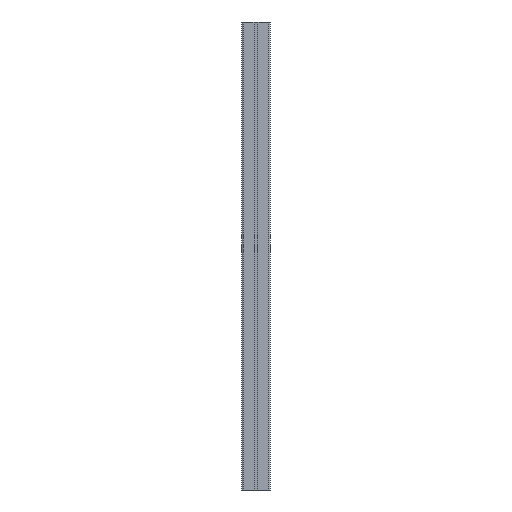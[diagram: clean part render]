
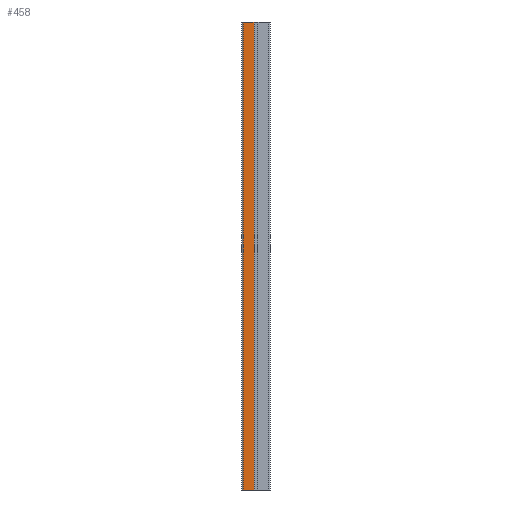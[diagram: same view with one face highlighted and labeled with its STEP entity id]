
A CAD part, left-side view. The second image highlights one B-rep face of the part: STEP entity #458.
In plain terms, the highlighted planar face has unit normal (-1, 0, 0).
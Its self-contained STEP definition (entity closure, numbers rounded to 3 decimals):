
#16 = LINE ( 'NONE', #1779, #2750 ) ;
#167 = EDGE_CURVE ( 'NONE', #253, #1332, #635, .T. ) ;
#243 = VECTOR ( 'NONE', #497, 1000. ) ;
#253 = VERTEX_POINT ( 'NONE', #1755 ) ;
#312 = FACE_OUTER_BOUND ( 'NONE', #1140, .T. ) ;
#357 = DIRECTION ( 'NONE',  ( 0., -1., 0. ) ) ;
#359 = LINE ( 'NONE', #776, #2372 ) ;
#458 = ADVANCED_FACE ( 'NONE', ( #312 ), #2041, .F. ) ;
#497 = DIRECTION ( 'NONE',  ( 0., -1., 0. ) ) ;
#560 = DIRECTION ( 'NONE',  ( 0., 1., 0. ) ) ;
#635 = LINE ( 'NONE', #2295, #1445 ) ;
#716 = EDGE_CURVE ( 'NONE', #1327, #1332, #16, .T. ) ;
#774 = ORIENTED_EDGE ( 'NONE', *, *, #716, .F. ) ;
#776 = CARTESIAN_POINT ( 'NONE',  ( -22.5, 27., 500. ) ) ;
#921 = LINE ( 'NONE', #2641, #243 ) ;
#960 = CARTESIAN_POINT ( 'NONE',  ( -22.5, 4.2, 500. ) ) ;
#1136 = VERTEX_POINT ( 'NONE', #2529 ) ;
#1140 = EDGE_LOOP ( 'NONE', ( #2147, #1728, #2572, #774 ) ) ;
#1327 = VERTEX_POINT ( 'NONE', #1381 ) ;
#1332 = VERTEX_POINT ( 'NONE', #1608 ) ;
#1381 = CARTESIAN_POINT ( 'NONE',  ( -22.5, 4.2, 500. ) ) ;
#1445 = VECTOR ( 'NONE', #357, 1000. ) ;
#1449 = AXIS2_PLACEMENT_3D ( 'NONE', #960, #1840, #560 ) ;
#1457 = EDGE_CURVE ( 'NONE', #1136, #253, #359, .T. ) ;
#1608 = CARTESIAN_POINT ( 'NONE',  ( -22.5, 4.2, -500. ) ) ;
#1728 = ORIENTED_EDGE ( 'NONE', *, *, #1457, .T. ) ;
#1755 = CARTESIAN_POINT ( 'NONE',  ( -22.5, 27., -500. ) ) ;
#1779 = CARTESIAN_POINT ( 'NONE',  ( -22.5, 4.2, 500. ) ) ;
#1840 = DIRECTION ( 'NONE',  ( 1., 0., 0. ) ) ;
#2041 = PLANE ( 'NONE',  #1449 ) ;
#2131 = EDGE_CURVE ( 'NONE', #1136, #1327, #921, .T. ) ;
#2147 = ORIENTED_EDGE ( 'NONE', *, *, #2131, .F. ) ;
#2295 = CARTESIAN_POINT ( 'NONE',  ( -22.5, 4.2, -500. ) ) ;
#2372 = VECTOR ( 'NONE', #2714, 1000. ) ;
#2529 = CARTESIAN_POINT ( 'NONE',  ( -22.5, 27., 500. ) ) ;
#2572 = ORIENTED_EDGE ( 'NONE', *, *, #167, .T. ) ;
#2591 = DIRECTION ( 'NONE',  ( 0., 0., -1. ) ) ;
#2641 = CARTESIAN_POINT ( 'NONE',  ( -22.5, 4.2, 500. ) ) ;
#2714 = DIRECTION ( 'NONE',  ( 0., 0., -1. ) ) ;
#2750 = VECTOR ( 'NONE', #2591, 1000. ) ;
